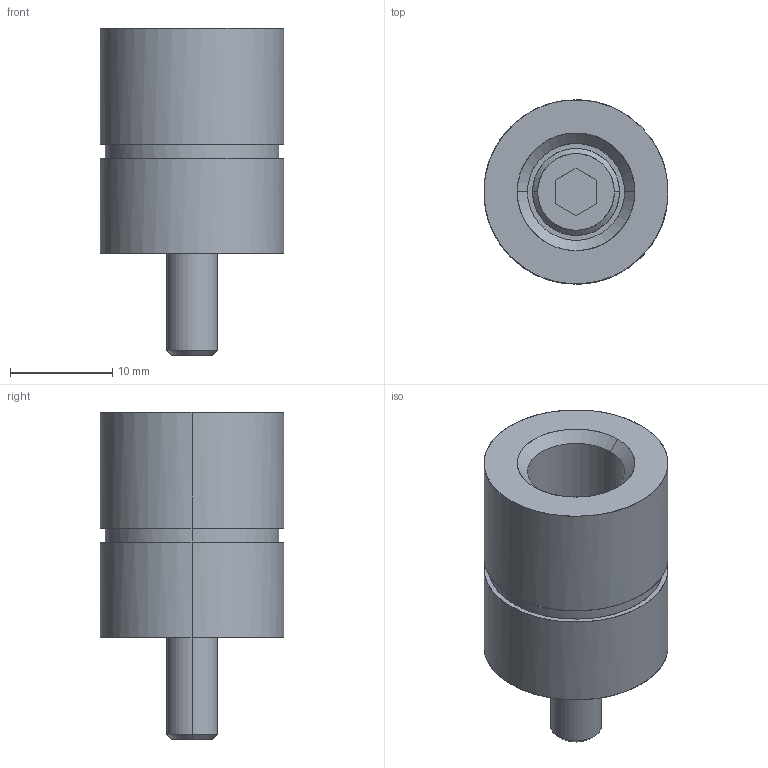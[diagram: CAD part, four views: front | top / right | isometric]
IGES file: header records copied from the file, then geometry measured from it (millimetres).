
Global section: file name: E:\UnigraphicsGraphicData\MISUMI_PRESS-PARTS\IGES\3d_sbn18-22-n_00578_r00.igs; native system: NX V5.0; preprocessor: UGS NX IGES V5.0; author: MISUMI; date: 20110105.162426; units: millimetre
Bounding box: 18 x 18 x 32 mm (x, y, z)
Surface area: 2855.6 mm2 (no closed solid volume)
Topology: 0 solids, 0 shells, 35 faces, 228 edges, 228 vertices
Faces by surface type: bspline 35
